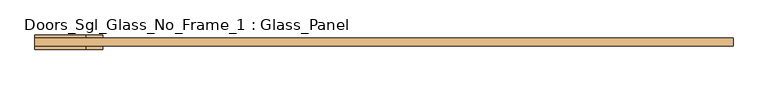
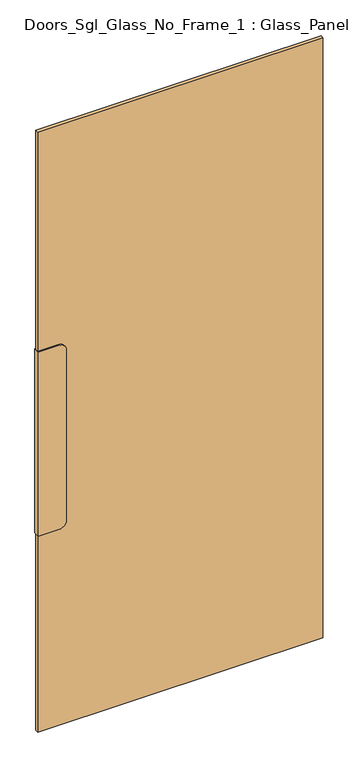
"""IFC4 building model written with IfcOpenShell, lengths in millimetres: door geometry, Doors_Sgl_Glass_No_Frame_1 : Glass_Panel."""

from ifc_helpers import new_model, si_unit, point, frame, frame_2d, origin, origin_with_axes, place, context, project, spatial, polyline, circle_curve, trimmed, segment, composite_curve, outline, extrude, source, transform, mapped, element, save


def doors_sgl_glass_no_frame_1_glass_panel_d0659190(model_context):
    return source(origin(), model_context, "Body", "SweptSolid", [
        extrude(outline(composite_curve([segment(polyline([(1450.0, -438.7428571), (1450.0, -513.7428571), (750.0, -513.7428571), (750.0, -438.7428571)]), True, "CONTINUOUS"), segment(trimmed(circle_curve(frame_2d((775.0, -438.7428571)), 25.0), [point((750.0, -438.7428571))], [point((775.0, -413.7428571))], False, "CARTESIAN"), True, "CONTINUOUS"), segment(polyline([(775.0, -413.7428571), (1425.0, -413.7428571)]), True, "CONTINUOUS"), segment(trimmed(circle_curve(frame_2d((1425.0, -438.7428571)), 25.0), [point((1425.0, -413.7428571))], [point((1450.0, -438.7428571))], False, "CARTESIAN"), True, "CONTINUOUS")], self_intersect=False)), frame((0.0, -55.0, 0.0), z_axis=(0.0, 1.0, 0.0), x_axis=(0.0, 0.0, 1.0)), (0.0, 0.0, 1.0), 22.0),
        extrude(outline(polyline([(513.7428571, -50.0), (-513.7428571, -50.0), (-513.7428571, -38.0), (513.7428571, -38.0), (513.7428571, -50.0)])), origin_with_axes(), (0.0, 0.0, 1.0), 2285.0),
    ])


if __name__ == "__main__":
    model = new_model("IFC4")
    model_context = context("Model", 3, world=origin())
    ifc_project = project(units=[si_unit("LENGTHUNIT", "METRE", prefix="MILLI")], contexts=[model_context])
    site = spatial("IfcSite", under=ifc_project)
    building = spatial("IfcBuilding", under=site)
    placement = place(None, origin())
    doors_sgl_glass_no_frame_1_glass_panel_shape = doors_sgl_glass_no_frame_1_glass_panel_d0659190(model_context)
    element("IfcDoor", 1, ObjectType="Doors_Sgl_Glass_No_Frame_1 : Glass_Panel", at=placement, inside=building, context=model_context, shape_type="MappedRepresentation", body=[
        mapped(doors_sgl_glass_no_frame_1_glass_panel_shape, transform((0.0, 0.0, 0.0), x_axis=(1.0, 0.0, 0.0), y_axis=(0.0, 1.0, 0.0), z_axis=(0.0, 0.0, 1.0))),
    ])
    save(model, "model.ifc")
